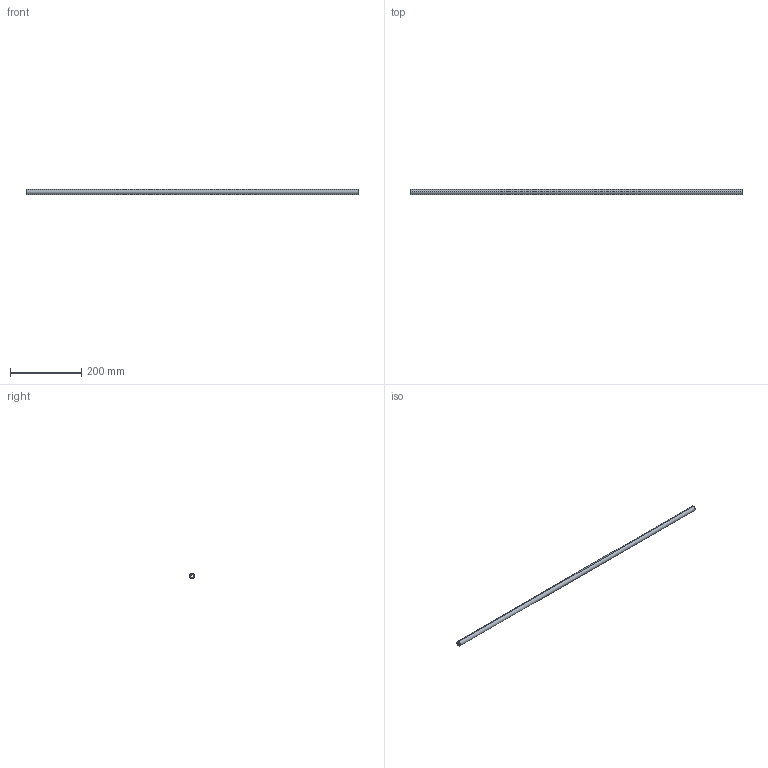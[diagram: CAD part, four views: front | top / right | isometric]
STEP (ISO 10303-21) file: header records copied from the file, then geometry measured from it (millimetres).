
FILE_DESCRIPTION (( 'STEP AP214' ), '1' );
FILE_NAME ('SyncronisationsstangeNova_Pro_KAB_1050_KS16.step', '2009-11-24T08:53:18', ( 'Grass' ), ( 'Grass GmbH' ), 'SwSTEP 2.0', 'SolidWorks 2009', '' );
FILE_SCHEMA (( 'AUTOMOTIVE_DESIGN' ));
Length unit declared in the file: millimetre
Products named in the file (1): SyncronisationsstangeNova_Pro_KAB_1050_KS16
Bounding box: 929 x 14 x 14 mm (x, y, z)
Volume: 100452.5 mm3; surface area: 64747.5 mm2
Topology: 1 solids, 1 shells, 15 faces, 39 edges, 26 vertices
Faces by surface type: cylinder 11, plane 4
Entity records: 513 total; most frequent: DIRECTION 93, CARTESIAN_POINT 81, ORIENTED_EDGE 78, EDGE_CURVE 39, AXIS2_PLACEMENT_3D 38, VERTEX_POINT 26, CIRCLE 22, VECTOR 17
